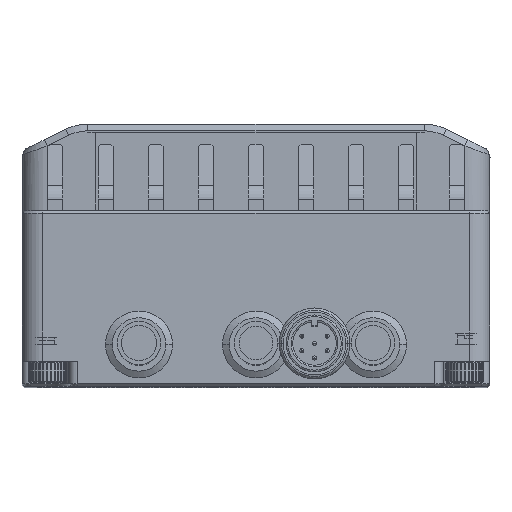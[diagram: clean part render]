
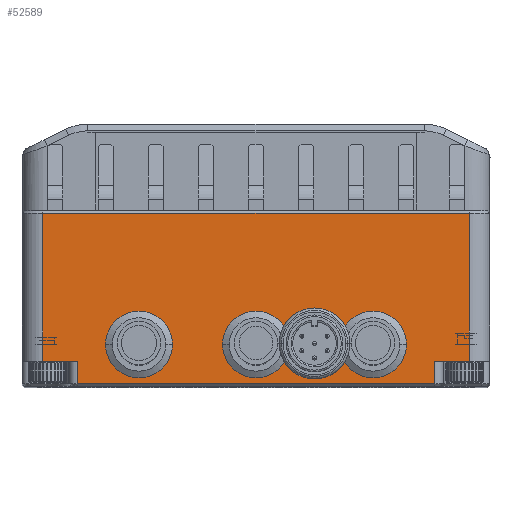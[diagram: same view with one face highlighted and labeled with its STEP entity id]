
A CAD part, top view. The second image highlights one B-rep face of the part: STEP entity #52589.
In plain terms, the highlighted planar face has unit normal (0, 0, 1).
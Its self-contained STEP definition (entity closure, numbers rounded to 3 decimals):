
#1512=DIRECTION('',(0.,-1.,0.));
#1513=VECTOR('',#1512,17.7);
#1514=CARTESIAN_POINT('',(-25.5,5.2,58.));
#1515=LINE('',#1514,#1513);
#1525=DIRECTION('',(0.,1.,0.));
#1526=VECTOR('',#1525,2.7);
#1527=CARTESIAN_POINT('',(21.4,-15.2,58.));
#1528=LINE('',#1527,#1526);
#1529=DIRECTION('',(-1.,0.,0.));
#1530=VECTOR('',#1529,42.8);
#1531=CARTESIAN_POINT('',(21.4,-15.2,58.));
#1532=LINE('',#1531,#1530);
#1533=DIRECTION('',(0.,-1.,0.));
#1534=VECTOR('',#1533,2.7);
#1535=CARTESIAN_POINT('',(-21.4,-12.5,58.));
#1536=LINE('',#1535,#1534);
#1537=DIRECTION('',(1.,0.,0.));
#1538=VECTOR('',#1537,51.);
#1539=CARTESIAN_POINT('',(-25.5,5.2,58.));
#1540=LINE('',#1539,#1538);
#1541=CARTESIAN_POINT('',(7.,-10.5,58.));
#1542=DIRECTION('',(0.,0.,1.));
#1543=DIRECTION('',(-1.,0.,0.));
#1544=AXIS2_PLACEMENT_3D('',#1541,#1542,#1543);
#1546=CARTESIAN_POINT('',(7.,-10.5,58.));
#1547=DIRECTION('',(0.,0.,1.));
#1548=DIRECTION('',(1.,0.,0.));
#1549=AXIS2_PLACEMENT_3D('',#1546,#1547,#1548);
#1555=DIRECTION('',(0.,1.,0.));
#1556=VECTOR('',#1555,17.7);
#1557=CARTESIAN_POINT('',(25.5,-12.5,58.));
#1558=LINE('',#1557,#1556);
#1651=DIRECTION('',(1.,0.,0.));
#1652=VECTOR('',#1651,4.1);
#1653=CARTESIAN_POINT('',(21.4,-12.5,58.));
#1654=LINE('',#1653,#1652);
#1699=DIRECTION('',(1.,0.,0.));
#1700=VECTOR('',#1699,4.1);
#1701=CARTESIAN_POINT('',(-25.5,-12.5,58.));
#1702=LINE('',#1701,#1700);
#6662=CARTESIAN_POINT('',(-14.,-10.5,58.));
#6663=DIRECTION('',(0.,0.,-1.));
#6664=DIRECTION('',(-1.,0.,0.));
#6665=AXIS2_PLACEMENT_3D('',#6662,#6663,#6664);
#6681=CARTESIAN_POINT('',(-14.,-10.5,58.));
#6682=DIRECTION('',(0.,0.,-1.));
#6683=DIRECTION('',(1.,0.,0.));
#6684=AXIS2_PLACEMENT_3D('',#6681,#6682,#6683);
#6690=CARTESIAN_POINT('',(0.,-10.5,58.));
#6691=DIRECTION('',(0.,0.,-1.));
#6692=DIRECTION('',(-1.,0.,0.));
#6693=AXIS2_PLACEMENT_3D('',#6690,#6691,#6692);
#6709=CARTESIAN_POINT('',(0.,-10.5,58.));
#6710=DIRECTION('',(0.,0.,-1.));
#6711=DIRECTION('',(1.,0.,0.));
#6712=AXIS2_PLACEMENT_3D('',#6709,#6710,#6711);
#6718=CARTESIAN_POINT('',(14.,-10.5,58.));
#6719=DIRECTION('',(0.,0.,-1.));
#6720=DIRECTION('',(-1.,0.,0.));
#6721=AXIS2_PLACEMENT_3D('',#6718,#6719,#6720);
#6737=CARTESIAN_POINT('',(14.,-10.5,58.));
#6738=DIRECTION('',(0.,0.,-1.));
#6739=DIRECTION('',(1.,0.,0.));
#6740=AXIS2_PLACEMENT_3D('',#6737,#6738,#6739);
#43177=CARTESIAN_POINT('',(25.5,5.2,58.));
#43178=VERTEX_POINT('',#43177);
#43181=CARTESIAN_POINT('',(-25.5,5.2,
58.));
#43182=VERTEX_POINT('',#43181);
#43536=CARTESIAN_POINT('',(25.5,-12.5,58.));
#43538=VERTEX_POINT('',#43536);
#43539=CARTESIAN_POINT('',(-25.5,-12.5,58.));
#43541=VERTEX_POINT('',#43539);
#43699=CARTESIAN_POINT('',(21.4,-12.5,58.));
#43700=VERTEX_POINT('',#43699);
#43701=CARTESIAN_POINT('',(-21.4,-12.5,58.));
#43702=VERTEX_POINT('',#43701);
#43765=CARTESIAN_POINT('',(21.4,-15.2,58.));
#43766=VERTEX_POINT('',#43765);
#43769=CARTESIAN_POINT('',(-21.4,-15.2,
58.));
#43770=VERTEX_POINT('',#43769);
#44682=CARTESIAN_POINT('',(-3.45,-10.5,58.));
#44684=VERTEX_POINT('',#44682);
#44685=CARTESIAN_POINT('',(3.45,-10.5,58.));
#44687=VERTEX_POINT('',#44685);
#44690=CARTESIAN_POINT('',(-17.45,-10.5,58.));
#44692=VERTEX_POINT('',#44690);
#44693=CARTESIAN_POINT('',(-10.55,-10.5,58.));
#44695=VERTEX_POINT('',#44693);
#44698=CARTESIAN_POINT('',(10.55,-10.5,58.));
#44700=VERTEX_POINT('',#44698);
#44701=CARTESIAN_POINT('',(17.45,-10.5,58.));
#44703=VERTEX_POINT('',#44701);
#51197=CARTESIAN_POINT('',(3.9,-10.5,58.));
#51198=CARTESIAN_POINT('',(10.1,-10.5,58.));
#51199=VERTEX_POINT('',#51197);
#51200=VERTEX_POINT('',#51198);
#52544=CARTESIAN_POINT('',(-28.,-10.5,58.));
#52545=DIRECTION('',(0.,0.,1.));
#52546=DIRECTION('',(1.,0.,0.));
#52547=AXIS2_PLACEMENT_3D('',#52544,#52545,#52546);
#52548=PLANE('',#52547);
#52550=ORIENTED_EDGE('',*,*,#52549,.F.);
#52552=ORIENTED_EDGE('',*,*,#52551,.F.);
#52554=ORIENTED_EDGE('',*,*,#52553,.F.);
#52555=ORIENTED_EDGE('',*,*,#52246,.T.);
#52557=ORIENTED_EDGE('',*,*,#52556,.F.);
#52559=ORIENTED_EDGE('',*,*,#52558,.F.);
#52560=ORIENTED_EDGE('',*,*,#52534,.F.);
#52562=ORIENTED_EDGE('',*,*,#52561,.T.);
#52563=EDGE_LOOP('',(#52550,#52552,#52554,#52555,#52557,#52559,#52560,#52562));
#52564=FACE_OUTER_BOUND('',#52563,.F.);
#52566=ORIENTED_EDGE('',*,*,#52565,.F.);
#52568=ORIENTED_EDGE('',*,*,#52567,.F.);
#52569=EDGE_LOOP('',(#52566,#52568));
#52570=FACE_BOUND('',#52569,.F.);
#52572=ORIENTED_EDGE('',*,*,#52571,.F.);
#52574=ORIENTED_EDGE('',*,*,#52573,.F.);
#52575=EDGE_LOOP('',(#52572,#52574));
#52576=FACE_BOUND('',#52575,.F.);
#52578=ORIENTED_EDGE('',*,*,#52577,.F.);
#52580=ORIENTED_EDGE('',*,*,#52579,.F.);
#52581=EDGE_LOOP('',(#52578,#52580));
#52582=FACE_BOUND('',#52581,.F.);
#52584=ORIENTED_EDGE('',*,*,#52583,.T.);
#52586=ORIENTED_EDGE('',*,*,#52585,.T.);
#52587=EDGE_LOOP('',(#52584,#52586));
#52588=FACE_BOUND('',#52587,.F.);
#52589=ADVANCED_FACE('',(#52564,#52570,#52576,#52582,#52588),#52548,.T.);
#1545=CIRCLE('',#1544,3.1);
#1550=CIRCLE('',#1549,3.1);
#6666=CIRCLE('',#6665,3.45);
#6685=CIRCLE('',#6684,3.45);
#6694=CIRCLE('',#6693,3.45);
#6713=CIRCLE('',#6712,3.45);
#6722=CIRCLE('',#6721,3.45);
#6741=CIRCLE('',#6740,3.45);
#52246=EDGE_CURVE('',#43766,#43770,#1532,.T.);
#52534=EDGE_CURVE('',#43182,#43541,#1515,.T.);
#52549=EDGE_CURVE('',#43538,#43178,#1558,.T.);
#52551=EDGE_CURVE('',#43700,#43538,#1654,.T.);
#52553=EDGE_CURVE('',#43766,#43700,#1528,.T.);
#52556=EDGE_CURVE('',#43702,#43770,#1536,.T.);
#52558=EDGE_CURVE('',#43541,#43702,#1702,.T.);
#52561=EDGE_CURVE('',#43182,#43178,#1540,.T.);
#52565=EDGE_CURVE('',#44700,#44703,#6722,.T.);
#52567=EDGE_CURVE('',#44703,#44700,#6741,.T.);
#52571=EDGE_CURVE('',#44684,#44687,#6694,.T.);
#52573=EDGE_CURVE('',#44687,#44684,#6713,.T.);
#52577=EDGE_CURVE('',#44692,#44695,#6666,.T.);
#52579=EDGE_CURVE('',#44695,#44692,#6685,.T.);
#52583=EDGE_CURVE('',#51199,#51200,#1545,.T.);
#52585=EDGE_CURVE('',#51200,#51199,#1550,.T.);
